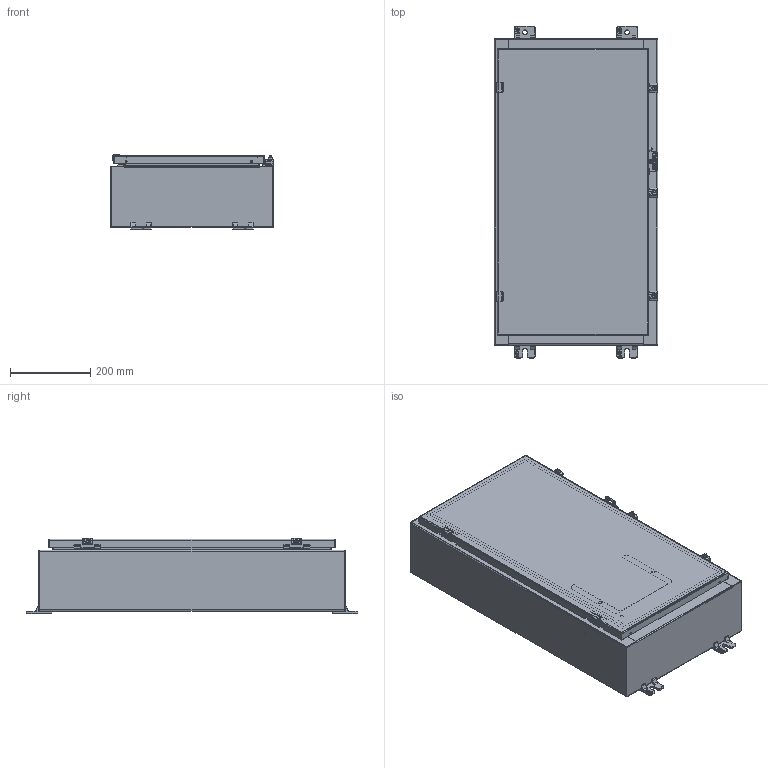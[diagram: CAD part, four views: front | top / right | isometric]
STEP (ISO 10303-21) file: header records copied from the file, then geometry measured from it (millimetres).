
FILE_DESCRIPTION((''),'2;1');
FILE_NAME('MODEL-309_ASM','2024-09-26T15:41:52',('richards'),('SAGINAW CONTROL & ENGINEERING'),'CREO PARAMETRIC BY PTC INC, 2021284','CREO PARAMETRIC BY PTC INC, 2021284','');
FILE_SCHEMA(('AUTOMOTIVE_DESIGN { 1 0 10303 214 1 1 1 1 }'));
Length unit declared in the file: inch
Products named in the file (35): MODEL-309-BDY; MODEL-309-TP; MODEL-309-BTM; MODEL-309-DR; 100837; 100882; 111541; MODEL-309-DOOR-GASKET; 126391; 126391_ASM; 126393; 102483; 101226; 101376; 102140; 115117; MODEL-309-DOOR-ASSY_ASM; 128630; 100059; 128630_ASM; 100921; 128631; 128631_ASM; 101653; 121452; 120132_BASE; 120132_CLAMP; 120132_SCREW; 120132_SPRING; 120132_ASM; 120133; SUBPANEL; 100904; SUBPANEL-SUBASSEMBLY_ASM; MODEL-309_ASM
Assembly tree (67 placements, depth 4):
  MODEL-309_ASM
    MODEL-309-BDY
    MODEL-309-TP
    MODEL-309-BTM
    MODEL-309-DOOR-ASSY_ASM
      MODEL-309-DR
      100837  x3
      100882  x2
      111541
      MODEL-309-DOOR-GASKET
      126391_ASM  x2
        126391
      126393  x2
      102483  x7
      101226  x2
      101376  x2
      102140  x2
      115117
    128630_ASM  x2
      128630
      100059
    100921  x4
    128631_ASM  x2
      128631
      100059
    100837
    101653  x4
    121452
    120132_ASM  x3
      120132_BASE
      120132_CLAMP
      120132_SCREW
      120132_SPRING
    100882  x4
    120133
    SUBPANEL-SUBASSEMBLY_ASM
      SUBPANEL
      100904  x4
Bounding box: 406.4 x 825.5 x 186.51 mm (x, y, z)
Volume: 3265228.3 mm3; surface area: 2940910.1 mm2
Topology: 70 solids, 70 shells, 5260 faces, 13569 edges, 8545 vertices
Faces by surface type: plane 1948, cylinder 1396, bspline 1113, torus 542, cone 150, sphere 111
Entity records: 114635 total; most frequent: CARTESIAN_POINT 35943, ORIENTED_EDGE 11652, DIRECTION 11258, PRESENTATION_STYLE_ASSIGNMENT 5959, STYLED_ITEM 5959, CURVE_STYLE 5826, EDGE_CURVE 5826, AXIS2_PLACEMENT_3D 4185
